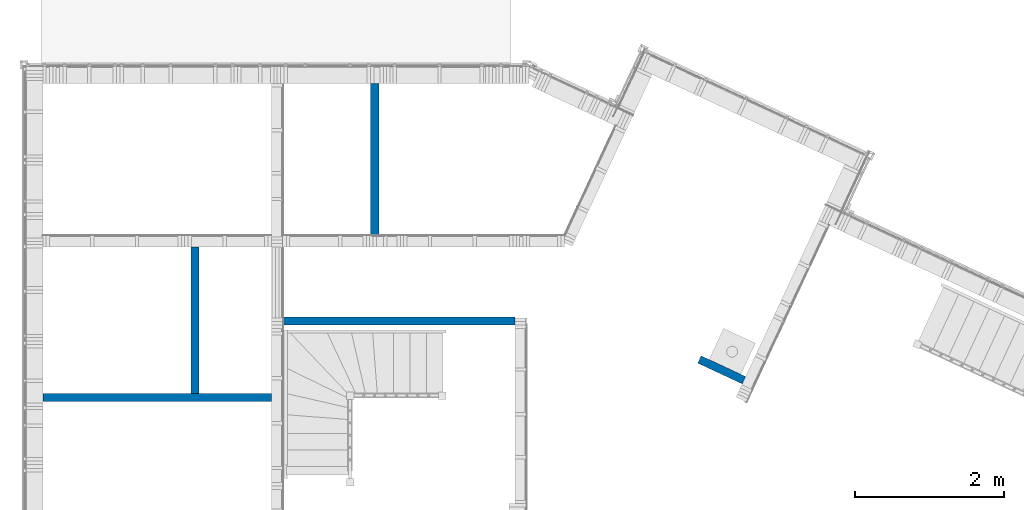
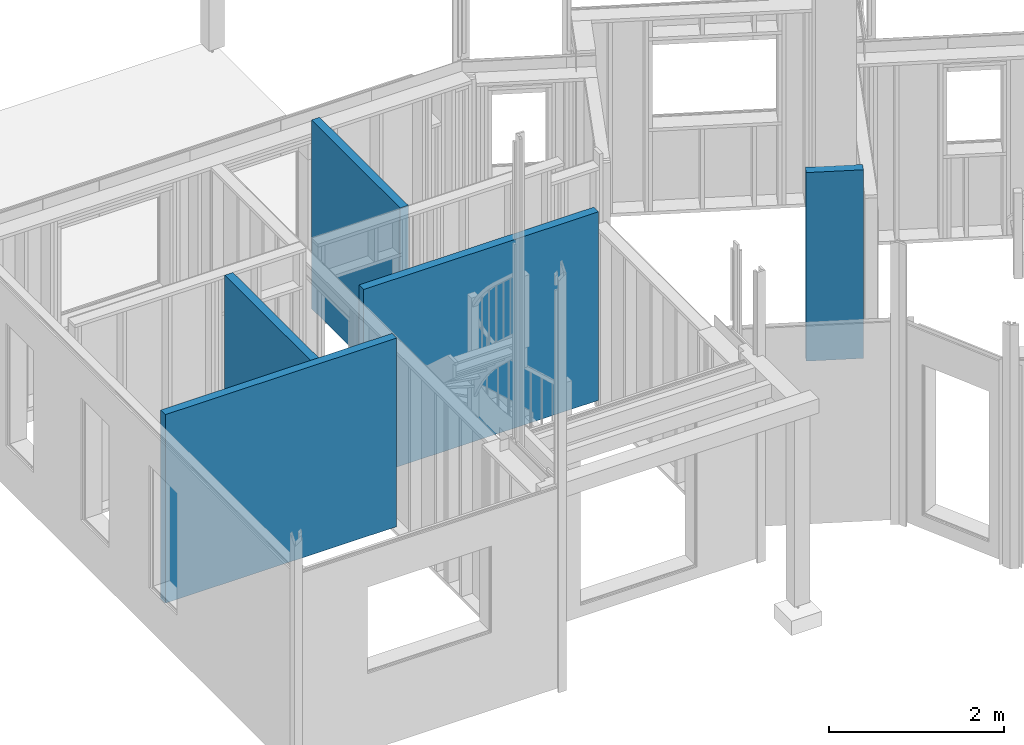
# One storey, part 28 of 34: 5 walls.
"""IFC2X3 building model written with IfcOpenShell, lengths in metres."""

import ifcopenshell
import ifcopenshell.guid

model = None  # the IFC model being written
_history = None  # IfcOwnerHistory: only IFC2X3 demands one
_inside = {}  # id of a spatial element -> (the spatial element, [elements in it])
_under = {}  # id of a project, library or spatial element -> (it, [spatial elements below it])
_declared = {}  # id of a project -> (the project, [libraries it declares])
_typed = {}  # id of a type object -> (the type object, [elements of that type])
_made_of = {}  # id of a material, layer set ... -> (it, [elements and type objects made of it])


def new_model(schema):
    """Start an empty IFC model of exactly this schema.

    Asked for "IFC4X3", IfcOpenShell would pick the latest addendum, in which some entities
    have other attributes; the version numbers below select the first issue.
    IFC2X3 requires an IfcOwnerHistory on every rooted entity: one is made here for all.
    """
    global model, _history
    if schema == "IFC4X3":
        model = ifcopenshell.file(schema_version=(4, 3, 0, 0))
    else:
        model = ifcopenshell.file(schema=schema)
    _inside.clear()
    _under.clear()
    _declared.clear()
    _typed.clear()
    _made_of.clear()
    _history = None
    if model.schema == "IFC2X3":
        org = make("IfcOrganization", Name="unknown")
        user = make(
            "IfcPersonAndOrganization",
            ThePerson=make("IfcPerson", FamilyName="unknown"),
            TheOrganization=org,
        )
        app = make(
            "IfcApplication",
            ApplicationDeveloper=org,
            Version="unknown",
            ApplicationFullName="unknown",
            ApplicationIdentifier="unknown",
        )
        _history = make(
            "IfcOwnerHistory",
            OwningUser=user,
            OwningApplication=app,
            ChangeAction="ADDED",
            CreationDate=0,
        )
    return model


def make(cls, **values):
    """One entity of the class cls with the attributes given. An attribute that is None is left unset."""
    return model.create_entity(
        cls, **{name: value for name, value in values.items() if value is not None}
    )


def rooted(cls, **values):
    """An entity with a GlobalId (a new one), such as an element, a storey or a relation."""
    return make(cls, GlobalId=ifcopenshell.guid.new(), OwnerHistory=_history, **values)


def si_unit(unit_type, name, prefix=None):
    """IfcSIUnit, for example si_unit("LENGTHUNIT", "METRE", prefix="MILLI")."""
    return make("IfcSIUnit", UnitType=unit_type, Prefix=prefix, Name=name)


def assignment(units):
    """IfcUnitAssignment: the units of a project."""
    return None if units is None else make("IfcUnitAssignment", Units=units)


def point(xyz):
    """IfcCartesianPoint."""
    return None if xyz is None else make("IfcCartesianPoint", Coordinates=xyz)


def direction(xyz):
    """IfcDirection."""
    return None if xyz is None else make("IfcDirection", DirectionRatios=xyz)


def frame(location, z_axis=None, x_axis=None):
    """IfcAxis2Placement3D, a coordinate frame: its origin and axes. An axis left out is left unset."""
    return make(
        "IfcAxis2Placement3D",
        Location=point(location),
        Axis=direction(z_axis),
        RefDirection=direction(x_axis),
    )


def origin_with_axes():
    """The frame at (0, 0, 0) with the z axis (0, 0, 1) and the x axis (1, 0, 0) written out."""
    return frame((0.0, 0.0, 0.0), z_axis=(0.0, 0.0, 1.0), x_axis=(1.0, 0.0, 0.0))


def place(relative_to, where):
    """IfcLocalPlacement: puts the frame where relative to a parent placement (None: the world)."""
    return make(
        "IfcLocalPlacement", PlacementRelTo=relative_to, RelativePlacement=where
    )


def context(
    kind, dimensions, precision=None, world=None, true_north=None, identifier=None
):
    """IfcGeometricRepresentationContext, for example the 3D "Model" context."""
    return make(
        "IfcGeometricRepresentationContext",
        ContextIdentifier=identifier,
        ContextType=kind,
        CoordinateSpaceDimension=dimensions,
        Precision=precision,
        WorldCoordinateSystem=world,
        TrueNorth=true_north,
    )


def subcontext(parent, identifier, kind, view, scale=None):
    """IfcGeometricRepresentationSubContext, for example "Body" below "Model"."""
    return make(
        "IfcGeometricRepresentationSubContext",
        ContextIdentifier=identifier,
        ContextType=kind,
        ParentContext=parent,
        TargetScale=scale,
        TargetView=view,
    )


def project(units=None, contexts=None):
    """IfcProject with its units and contexts."""
    return rooted(
        "IfcProject",
        Name="project",
        RepresentationContexts=contexts,
        UnitsInContext=assignment(units),
    )


def spatial(cls, under=None, at=None, **own):
    """A site, building, storey or space (cls), placed at a placement, below another one or the project."""
    s = rooted(cls, ObjectPlacement=at, **own)
    if under is not None:
        _under.setdefault(under.id(), (under, []))[1].append(s)
    return s


def faces_of(points, faces, orient=None, outer=None):
    """IfcFace entities. A face is a list of loops; a loop is a list of indices into points, from 0.

    orient and outer hold one flag for each loop. By default every Orientation is true, the
    first loop of a face is its IfcFaceOuterBound and the others are IfcFaceBound.
    """
    made = []
    for i, loops in enumerate(faces):
        bounds = []
        for j, loop in enumerate(loops):
            is_outer = j == 0 if outer is None else outer[i][j]
            bounds.append(
                make(
                    "IfcFaceOuterBound" if is_outer else "IfcFaceBound",
                    Bound=make("IfcPolyLoop", Polygon=[points[k] for k in loop]),
                    Orientation=True if orient is None else orient[i][j],
                )
            )
        made.append(make("IfcFace", Bounds=bounds))
    return made


def faceted_brep(points, faces, orient=None, outer=None, voids=None):
    """IfcFacetedBrep: a solid bounded by flat faces; with voids (closed shells), ...WithVoids."""
    shared = [point(p) for p in points]
    hull = make("IfcClosedShell", CfsFaces=faces_of(shared, faces, orient, outer))
    if voids is None:
        return make("IfcFacetedBrep", Outer=hull)
    return make(
        "IfcFacetedBrepWithVoids",
        Outer=hull,
        Voids=[
            make(cls, CfsFaces=faces_of(shared, fs, o, b)) for cls, fs, o, b in voids
        ],
    )


def shape(context_of_items, identifier, shape_type, items):
    """IfcShapeRepresentation: the items that make up one representation, for example the "Body"."""
    return make(
        "IfcShapeRepresentation",
        ContextOfItems=context_of_items,
        RepresentationIdentifier=identifier,
        RepresentationType=shape_type,
        Items=items,
    )


def material(Name=None, Category=None):
    """IfcMaterial."""
    return make("IfcMaterial", Name=Name, Category=Category)


def made_of(thing, what):
    """Note that an element or type object is made of a material, layer set ...; save() writes the relation."""
    if what is not None:
        _made_of.setdefault(what.id(), (what, []))[1].append(thing)
    return thing


def element(
    cls,
    number,
    at=None,
    inside=None,
    cuts=None,
    type_object=None,
    material=None,
    context=None,
    identifier="Body",
    shape_type=None,
    held_by="IfcProductDefinitionShape",
    body=None,
    shapes=None,
    **own,
):
    """One element of the class cls, such as IfcWall. Its Tag is "e" and its number.

    at: its placement. inside: the storey or other place that contains it. cuts: it is an
    opening in that element (IfcRelVoidsElement). A single representation is given by context,
    identifier, shape_type and body (its items); several are given by shapes. held_by: the class
    of the entity that holds the representations. save() writes the other relations.
    """
    e = rooted(cls, Tag="e%d" % number, ObjectPlacement=at, **own)
    if body is not None:
        shapes = [shape(context, identifier, shape_type, body)]
    if shapes is not None:
        e.Representation = make(held_by, Representations=shapes)
    if inside is not None:
        _inside.setdefault(inside.id(), (inside, []))[1].append(e)
    if cuts is not None:
        rooted(
            "IfcRelVoidsElement", RelatingBuildingElement=cuts, RelatedOpeningElement=e
        )
    if type_object is not None:
        _typed.setdefault(type_object.id(), (type_object, []))[1].append(e)
    return made_of(e, material)


def aggregate(whole, parts):
    """IfcRelAggregates: a whole, such as a stair, and the parts it consists of."""
    return rooted("IfcRelAggregates", RelatingObject=whole, RelatedObjects=parts)


def save(model, path):
    """Write the relations noted so far, then the file.

    IfcRelAggregates (storeys below a building ...), IfcRelContainedInSpatialStructure (elements
    in a storey), IfcRelDefinesByType, IfcRelAssociatesMaterial and IfcRelDeclares: one each for
    every whole, place, type object, material and project.
    """
    for whole, parts in _under.values():
        aggregate(whole, parts)
    for where, things in _inside.values():
        rooted(
            "IfcRelContainedInSpatialStructure",
            RelatedElements=things,
            RelatingStructure=where,
        )
    for kind, things in _typed.values():
        rooted("IfcRelDefinesByType", RelatedObjects=things, RelatingType=kind)
    for what, things in _made_of.values():
        rooted("IfcRelAssociatesMaterial", RelatedObjects=things, RelatingMaterial=what)
    for by, libraries in _declared.values():
        rooted("IfcRelDeclares", RelatingContext=by, RelatedDefinitions=libraries)
    model.write(path)


model = new_model("IFC2X3")

# Units and contexts
model_context = context("Model", 3, precision=1e-06, world=origin_with_axes(), true_north=direction((0.0, 1.0, 0.0)))
body_context = subcontext(model_context, "Body", "Model", "MODEL_VIEW")
ifc_project = project(units=[si_unit("LENGTHUNIT", "METRE"), si_unit("AREAUNIT", "SQUARE_METRE"), si_unit("VOLUMEUNIT", "CUBIC_METRE"), si_unit("PLANEANGLEUNIT", "RADIAN")], contexts=[model_context])

# Site, building, storey
site_placement = place(None, origin_with_axes())
site = spatial("IfcSite", under=ifc_project, at=site_placement, CompositionType="ELEMENT")
building_placement = place(site_placement, origin_with_axes())
building = spatial("IfcBuilding", under=site, at=building_placement, Name="Building 1", CompositionType="ELEMENT")
storey_placement = place(building_placement, origin_with_axes())
storey = spatial("IfcBuildingStorey", under=building, at=storey_placement, Name="Rez de chaussée", CompositionType="ELEMENT", Elevation=0.0)

# Walls
ifc_material = material(Name="NH II")
wall_1_placement = place(storey_placement, frame((1.7615, 3.472393, 2.805), z_axis=(0.0, 0.0, -1.0), x_axis=(-1.0, 0.0, 0.0)))
element("IfcWall", 1, at=wall_1_placement, inside=storey, material=ifc_material, Name="Surf_cloison", context=body_context, shape_type="Brep", body=[
    faceted_brep([(-1.5295, -0.054, 0.0), (1.5295, -0.054, 0.0), (1.5295, -0.054, 2.635), (-1.5295, -0.054, 2.635), (1.5295, 0.054, 0.0), (-1.5295, 0.054, 0.0), (-1.5295, 0.054, 2.635), (1.5295, 0.054, 2.635)], [[[0, 1, 2, 3]], [[4, 5, 6, 7]], [[1, 0, 5, 4]], [[0, 3, 6, 5]], [[3, 2, 7, 6]], [[2, 1, 4, 7]]]),
])
wall_2_placement = place(storey_placement, frame((4.676104, 6.6616088, 2.805), z_axis=(0.0, 0.0, -1.0), x_axis=(0.0, -1.0, 0.0)))
element("IfcWall", 2, at=wall_2_placement, inside=storey, material=ifc_material, Name="Surf_cloison", context=body_context, shape_type="Brep", body=[
    faceted_brep([(-1.0143912, -0.054, 0.0), (1.0143912, -0.054, 0.0), (1.0143912, -0.054, 2.635), (-1.0143912, -0.054, 2.635), (1.0143912, 0.054, 0.0), (-1.0143912, 0.054, 0.0), (-1.0143912, 0.054, 2.635), (1.0143912, 0.054, 2.635)], [[[0, 1, 2, 3]], [[4, 5, 6, 7]], [[1, 0, 5, 4]], [[0, 3, 6, 5]], [[3, 2, 7, 6]], [[2, 1, 4, 7]]]),
])
wall_3_placement = place(storey_placement, frame((4.9995, 4.5, 2.805), z_axis=(0.0, 0.0, -1.0), x_axis=(-1.0, 0.0, 0.0)))
element("IfcWall", 3, at=wall_3_placement, inside=storey, material=ifc_material, Name="Surf_cloison", context=body_context, shape_type="Brep", body=[
    faceted_brep([(-1.5515, -0.054, 0.0), (1.5515, -0.054, 0.0), (1.5515, -0.054, 2.635), (-1.5515, -0.054, 2.635), (1.5515, 0.054, 0.0), (-1.5515, 0.054, 0.0), (-1.5515, 0.054, 2.635), (1.5515, 0.054, 2.635)], [[[0, 1, 2, 3]], [[4, 5, 6, 7]], [[1, 0, 5, 4]], [[0, 3, 6, 5]], [[3, 2, 7, 6]], [[2, 1, 4, 7]]]),
])
wall_4_placement = place(storey_placement, frame((2.2677218, 4.5083053, 2.805), z_axis=(0.0, 0.0, -1.0), x_axis=(0.0, -1.0, 0.0)))
element("IfcWall", 4, at=wall_4_placement, inside=storey, material=ifc_material, Name="Surf_cloison", context=body_context, shape_type="Brep", body=[
    faceted_brep([(0.9819123, 0.054, 0.0), (0.9819123, 0.054, 2.635), (0.9819123, -0.054, 2.635), (0.9819123, -0.054, 0.0), (-0.9819123, 0.054, 2.635), (-0.9819123, -0.054, 2.635), (-0.9819123, 0.054, 0.0), (-0.9819123, -0.054, 0.0)], [[[0, 1, 2, 3]], [[2, 1, 4, 5]], [[1, 0, 6, 4]], [[3, 2, 5, 7]], [[0, 3, 7, 6]], [[7, 5, 4, 6]]]),
])
wall_5_placement = place(storey_placement, frame((9.3203683, 3.8436329, 2.805), z_axis=(0.0, 0.0, -1.0), x_axis=(0.906319, -0.4225941, 0.0)))
element("IfcWall", 5, at=wall_5_placement, inside=storey, material=ifc_material, Name="Surf_cloison", context=body_context, shape_type="Brep", body=[
    faceted_brep([(-0.3289655, -0.054, 0.0), (0.3289655, -0.054, 0.0), (0.3289655, -0.054, 2.635), (-0.3289655, -0.054, 2.635), (0.3289655, 0.054, 0.0), (-0.3289655, 0.054, 0.0), (-0.3289655, 0.054, 2.635), (0.3289655, 0.054, 2.635)], [[[0, 1, 2, 3]], [[4, 5, 6, 7]], [[1, 0, 5, 4]], [[0, 3, 6, 5]], [[3, 2, 7, 6]], [[2, 1, 4, 7]]]),
])

save(model, "model.ifc")
